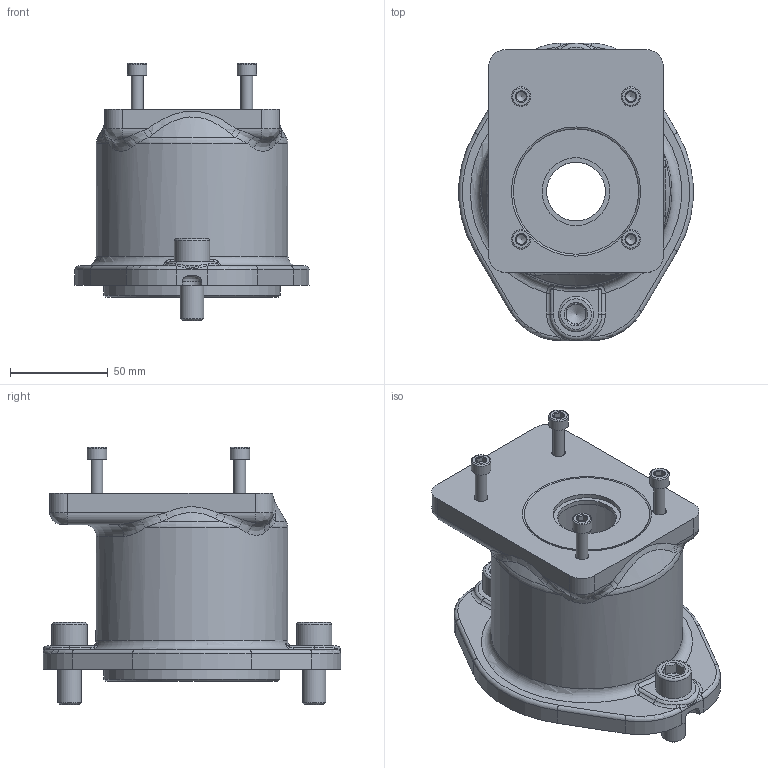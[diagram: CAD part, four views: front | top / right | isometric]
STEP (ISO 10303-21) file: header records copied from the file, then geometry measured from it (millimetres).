
FILE_DESCRIPTION(/* description */ (''),/* implementation_level */ '2;1');
FILE_NAME(/* name */ '3000022100_Semplifica_1.stp',/* time_stamp */ '2023-03-23T11:20:03+01:00',/* author */ ('marcop'),/* organization */ (''),/* preprocessor_version */ 'ST-DEVELOPER v19.2',/* originating_system */ 'Autodesk Inventor 2023',/* authorisation */ '');
FILE_SCHEMA (('AUTOMOTIVE_DESIGN { 1 0 10303 214 3 1 1 }'));
Length unit declared in the file: inch
Products named in the file (1): 3000022100_Semplifica_1
Bounding box: 119.66 x 152 x 131.5 mm (x, y, z)
Volume: 399214.1 mm3; surface area: 93454.8 mm2
Topology: 1 solids, 1 shells, 273 faces, 649 edges, 396 vertices
Faces by surface type: plane 113, cylinder 61, bspline 45, cone 27, torus 27
Full cylindrical faces by diameter (mm): 6 x4, 10 x4, 12 x2, 13 x2, 18 x2, 30 x1, 34.7 x1, 50 x1, 60 x1, 64 x2, 80 x1, 90 x1, 98 x1, 99 x1, 106 x1
Entity records: 9345 total; most frequent: CARTESIAN_POINT 3034, ORIENTED_EDGE 1282, DIRECTION 1212, EDGE_CURVE 641, AXIS2_PLACEMENT_3D 492, VERTEX_POINT 396, EDGE_LOOP 303, STYLED_ITEM 274
